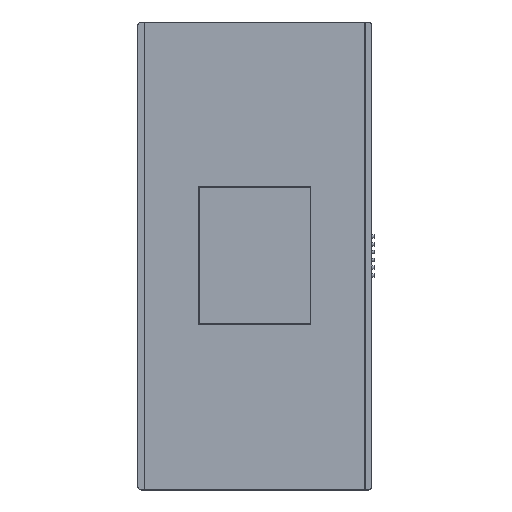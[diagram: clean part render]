
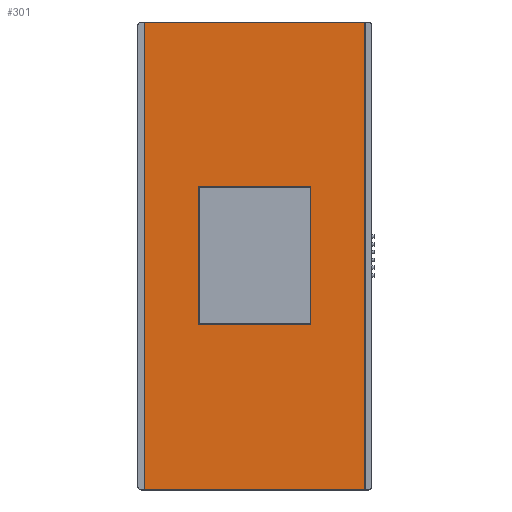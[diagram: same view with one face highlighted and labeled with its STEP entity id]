
A CAD part, top view. The second image highlights one B-rep face of the part: STEP entity #301.
In plain terms, the highlighted planar face has unit normal (0, 0, 1).
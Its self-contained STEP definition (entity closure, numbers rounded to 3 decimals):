
#99=CARTESIAN_POINT('Vertex',(282.5,-600.,30.)) ;
#151=CARTESIAN_POINT('Vertex',(282.5,600.,30.)) ;
#171=CARTESIAN_POINT('Line Origine',(282.5,0.,30.)) ;
#234=CARTESIAN_POINT('Vertex',(-282.5,600.,30.)) ;
#237=CARTESIAN_POINT('Line Origine',(0.,600.,30.)) ;
#263=CARTESIAN_POINT('Vertex',(-282.5,-600.,30.)) ;
#273=CARTESIAN_POINT('Line Origine',(0.,-600.,30.)) ;
#285=CARTESIAN_POINT('Axis2P3D Location',(0.,0.,30.)) ;
#290=CARTESIAN_POINT('Line Origine',(-282.5,0.,30.)) ;
#172=DIRECTION('Vector Direction',(0.,-1.,0.)) ;
#238=DIRECTION('Vector Direction',(1.,0.,0.)) ;
#274=DIRECTION('Vector Direction',(-1.,0.,0.)) ;
#286=DIRECTION('Axis2P3D Direction',(0.,0.,1.)) ;
#287=DIRECTION('Axis2P3D XDirection',(1.,0.,0.)) ;
#291=DIRECTION('Vector Direction',(0.,1.,0.)) ;
#288=AXIS2_PLACEMENT_3D('Plane Axis2P3D',#285,#286,#287) ;
#296=ORIENTED_EDGE('',*,*,#277,.T.) ;
#297=ORIENTED_EDGE('',*,*,#175,.F.) ;
#298=ORIENTED_EDGE('',*,*,#241,.T.) ;
#299=ORIENTED_EDGE('',*,*,#294,.T.) ;
#173=VECTOR('Line Direction',#172,1.) ;
#239=VECTOR('Line Direction',#238,1.) ;
#275=VECTOR('Line Direction',#274,1.) ;
#292=VECTOR('Line Direction',#291,1.) ;
#301=ADVANCED_FACE('Involucro',(#300),#289,.T.) ;
#175=EDGE_CURVE('',#152,#100,#174,.T.) ;
#241=EDGE_CURVE('',#152,#235,#240,.F.) ;
#277=EDGE_CURVE('',#264,#100,#276,.F.) ;
#294=EDGE_CURVE('',#235,#264,#293,.F.) ;
#295=EDGE_LOOP('',(#296,#297,#298,#299)) ;
#300=FACE_OUTER_BOUND('',#295,.T.) ;
#174=LINE('Line',#171,#173) ;
#240=LINE('Line',#237,#239) ;
#276=LINE('Line',#273,#275) ;
#293=LINE('Line',#290,#292) ;
#289=PLANE('',#288) ;
#100=VERTEX_POINT('',#99) ;
#152=VERTEX_POINT('',#151) ;
#235=VERTEX_POINT('',#234) ;
#264=VERTEX_POINT('',#263) ;
